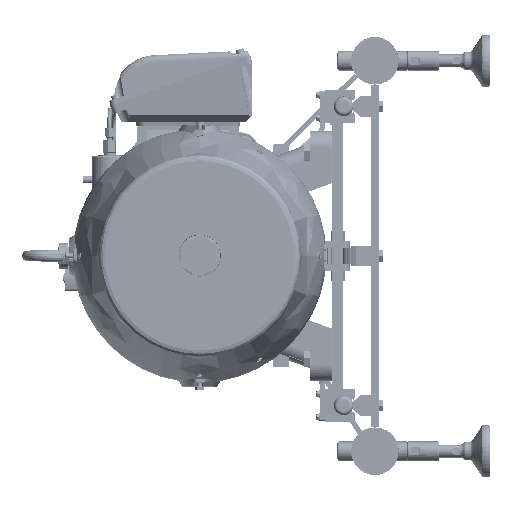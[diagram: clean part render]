
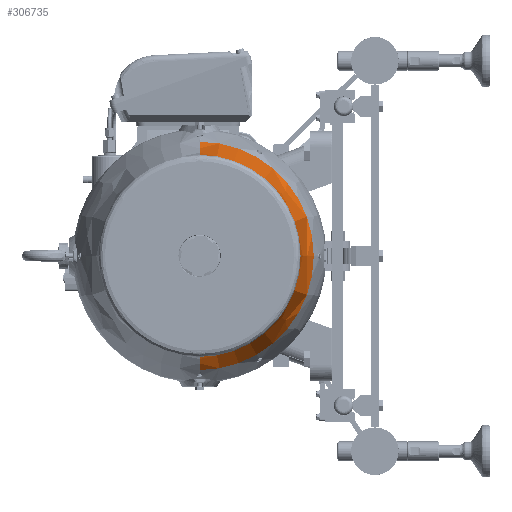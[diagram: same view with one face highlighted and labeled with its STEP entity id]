
A CAD part, left-side view. The second image highlights one B-rep face of the part: STEP entity #306735.
In plain terms, the highlighted free-form (B-spline) face has degree [3, 3] with [4, 4] control points.
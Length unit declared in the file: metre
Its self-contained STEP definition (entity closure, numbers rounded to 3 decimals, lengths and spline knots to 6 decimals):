
#3161 = CARTESIAN_POINT ( 'NONE',  ( -1.024135, 0.26955, -0.155129 ) ) ;
#11562 = AXIS2_PLACEMENT_3D ( 'NONE', #713079, #821239, #385173 ) ;
#16041 = EDGE_CURVE ( 'NONE', #699386, #89669, #276256, .T. ) ;
#45007 = CIRCLE ( 'NONE', #84663, 0.178663 ) ;
#58928 = ORIENTED_EDGE ( 'NONE', *, *, #818677, .F. ) ;
#84663 = AXIS2_PLACEMENT_3D ( 'NONE', #707280, #458031, #516149 ) ;
#89669 = VERTEX_POINT ( 'NONE', #242993 ) ;
#173659 = CARTESIAN_POINT ( 'NONE',  ( -0.999054, -0.044363, -0.156781 ) ) ;
#184294 = ORIENTED_EDGE ( 'NONE', *, *, #16041, .F. ) ;
#206852 = DIRECTION ( 'NONE',  ( 0., 0., -1. ) ) ;
#212518 = FACE_OUTER_BOUND ( 'NONE', #754054, .T. ) ;
#213158 = EDGE_CURVE ( 'NONE', #818802, #246606, #45007, .T. ) ;
#231954 = CARTESIAN_POINT ( 'NONE',  ( -0.974864, -0.058027, -0.163614 ) ) ;
#242993 = CARTESIAN_POINT ( 'NONE',  ( -1.024135, 0.26955, -0.155129 ) ) ;
#246606 = VERTEX_POINT ( 'NONE', #602205 ) ;
#276256 = CIRCLE ( 'NONE', #567814, 0.178663 ) ;
#283129 = CARTESIAN_POINT ( 'NONE',  ( -0.952624, 0.26955, 0.175677 ) ) ;
#302040 = CIRCLE ( 'NONE', #699767, 0.155304 ) ;
#306735 = ADVANCED_FACE ( 'NONE', ( #212518 ), #441266, .F. ) ;
#327497 = DIRECTION ( 'NONE',  ( 0., 0., 1. ) ) ;
#335755 = DIRECTION ( 'NONE',  ( 0., -1., 0. ) ) ;
#360808 = CARTESIAN_POINT ( 'NONE',  ( -0.999054, 0.26955, -0.156781 ) ) ;
#385173 = DIRECTION ( 'NONE',  ( 0., 0., 1. ) ) ;
#391566 = ORIENTED_EDGE ( 'NONE', *, *, #411663, .F. ) ;
#411663 = EDGE_CURVE ( 'NONE', #246606, #699386, #793699, .T. ) ;
#441266 =( BOUNDED_SURFACE ( )  B_SPLINE_SURFACE ( 3, 3, ( 
 ( #466084, #661139, #598642, #283129 ),
 ( #789822, #231954, #485471, #738827 ),
 ( #360808, #173659, #443599, #755197 ),
 ( #3161, #700960, #630438, #634544 ) ),
 .UNSPECIFIED., .F., .F., .F. ) 
 B_SPLINE_SURFACE_WITH_KNOTS ( ( 4, 4 ),
 ( 4, 4 ),
 ( 0., 1. ),
 ( 0., 1. ),
 .UNSPECIFIED. ) 
 GEOMETRIC_REPRESENTATION_ITEM ( )  RATIONAL_B_SPLINE_SURFACE ( (
 ( 1., 0.333, 0.333, 1.),
 ( 0.985, 0.328, 0.328, 0.985),
 ( 0.985, 0.328, 0.328, 0.985),
 ( 1., 0.333, 0.333, 1.) ) ) 
 REPRESENTATION_ITEM ( '' )  SURFACE ( )  );
#443599 = CARTESIAN_POINT ( 'NONE',  ( -0.999054, -0.044363, 0.157131 ) ) ;
#458031 = DIRECTION ( 'NONE',  ( 0., -1., 0. ) ) ;
#466084 = CARTESIAN_POINT ( 'NONE',  ( -0.952624, 0.26955, -0.175327 ) ) ;
#468528 = DIRECTION ( 'NONE',  ( -1., 0., 0. ) ) ;
#485471 = CARTESIAN_POINT ( 'NONE',  ( -0.974864, -0.058027, 0.163964 ) ) ;
#509252 = CARTESIAN_POINT ( 'NONE',  ( -0.952624, 0.26955, -0.175327 ) ) ;
#516149 = DIRECTION ( 'NONE',  ( 0., 0., 1. ) ) ;
#526651 = CARTESIAN_POINT ( 'NONE',  ( -1.035879, 0.26955, -0.333406 ) ) ;
#534769 = CARTESIAN_POINT ( 'NONE',  ( -1.024135, 0.26955, 0.000175 ) ) ;
#549474 = ORIENTED_EDGE ( 'NONE', *, *, #213158, .F. ) ;
#567814 = AXIS2_PLACEMENT_3D ( 'NONE', #526651, #335755, #206852 ) ;
#592953 = CARTESIAN_POINT ( 'NONE',  ( -1.024135, 0.26955, 0.155479 ) ) ;
#598642 = CARTESIAN_POINT ( 'NONE',  ( -0.952624, -0.081454, 0.175677 ) ) ;
#602205 = CARTESIAN_POINT ( 'NONE',  ( -0.952624, 0.26955, 0.175677 ) ) ;
#630438 = CARTESIAN_POINT ( 'NONE',  ( -1.024135, -0.041058, 0.155479 ) ) ;
#634544 = CARTESIAN_POINT ( 'NONE',  ( -1.024135, 0.26955, 0.155479 ) ) ;
#661139 = CARTESIAN_POINT ( 'NONE',  ( -0.952624, -0.081454, -0.175327 ) ) ;
#699386 = VERTEX_POINT ( 'NONE', #509252 ) ;
#699767 = AXIS2_PLACEMENT_3D ( 'NONE', #534769, #468528, #327497 ) ;
#700960 = CARTESIAN_POINT ( 'NONE',  ( -1.024135, -0.041058, -0.155129 ) ) ;
#707280 = CARTESIAN_POINT ( 'NONE',  ( -1.035879, 0.26955, 0.333756 ) ) ;
#713079 = CARTESIAN_POINT ( 'NONE',  ( -0.952624, 0.26955, 0.000175 ) ) ;
#738827 = CARTESIAN_POINT ( 'NONE',  ( -0.974864, 0.26955, 0.163964 ) ) ;
#754054 = EDGE_LOOP ( 'NONE', ( #184294, #391566, #549474, #58928 ) ) ;
#755197 = CARTESIAN_POINT ( 'NONE',  ( -0.999054, 0.26955, 0.157131 ) ) ;
#789822 = CARTESIAN_POINT ( 'NONE',  ( -0.974864, 0.26955, -0.163614 ) ) ;
#793699 = CIRCLE ( 'NONE', #11562, 0.175502 ) ;
#818677 = EDGE_CURVE ( 'NONE', #89669, #818802, #302040, .T. ) ;
#818802 = VERTEX_POINT ( 'NONE', #592953 ) ;
#821239 = DIRECTION ( 'NONE',  ( 1., 0., 0. ) ) ;
